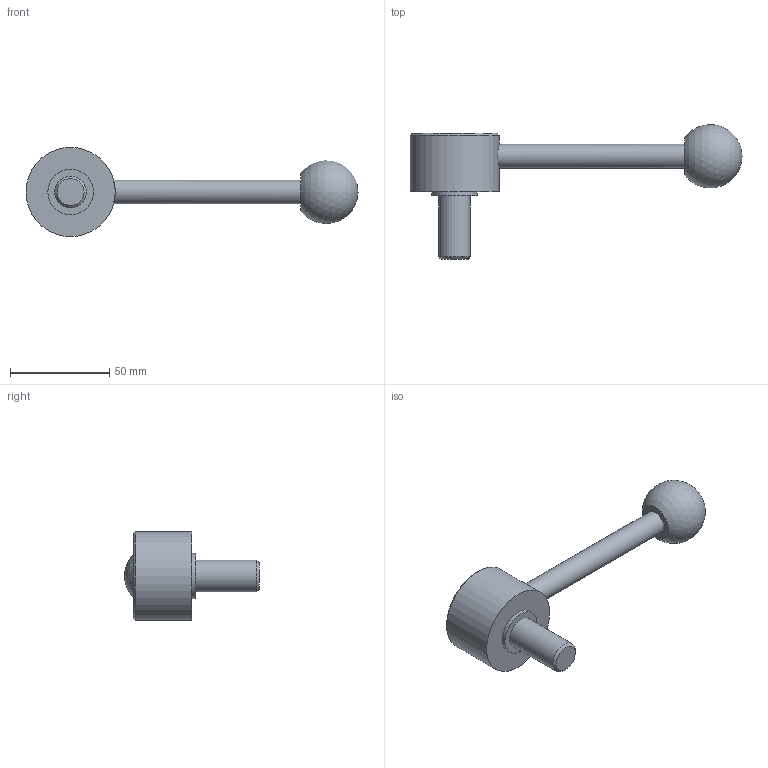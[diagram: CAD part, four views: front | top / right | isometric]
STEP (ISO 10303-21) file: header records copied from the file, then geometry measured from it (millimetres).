
FILE_DESCRIPTION( ( 'STEP AP203' ), '1' );
FILE_NAME( 'C:/Temp/Ganter_Step_05_03_2020/data/2_1/gn_125/gn_125_ms/gn_125_ms_d/Flat Adjustable Lever GN 125-45-M16-32-D.stp', '2020-03-05T11:00:51', ( 'License CC BY-ND 4.0' ), ( 'CADENAS' ), ' ', 'PARTsolutions', ' ' );
FILE_SCHEMA( ( 'CONFIG_CONTROL_DESIGN' ) );
Length unit declared in the file: millimetre
Products named in the file (1): _Flat Adjustable Lever GN 125-45-M16-32-D
Bounding box: 167.5 x 67.88 x 45 mm (x, y, z)
Volume: 81206.5 mm3; surface area: 15508.9 mm2
Topology: 1 solids, 1 shells, 14 faces, 23 edges, 15 vertices
Faces by surface type: plane 6, cylinder 5, cone 2, sphere 1
Full cylindrical faces by diameter (mm): 12 x1, 16 x1, 23 x1, 32 x1, 45 x1
Entity records: 402 total; most frequent: CARTESIAN_POINT 125, DIRECTION 54, AXIS2_PLACEMENT_3D 27, EDGE_LOOP 26, ORIENTED_EDGE 26, FACE_OUTER_BOUND 19, ADVANCED_FACE 14, VERTEX_POINT 14
